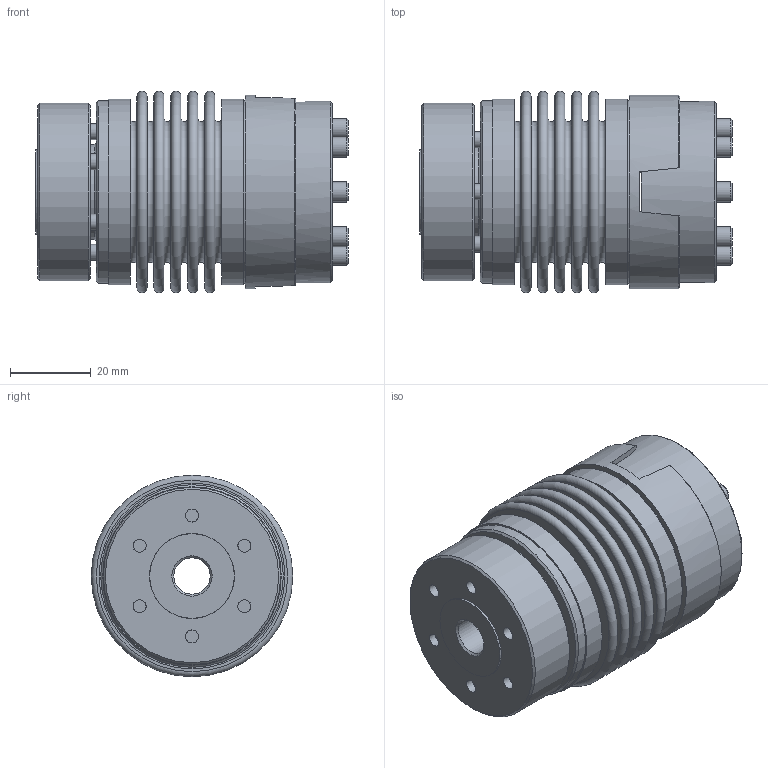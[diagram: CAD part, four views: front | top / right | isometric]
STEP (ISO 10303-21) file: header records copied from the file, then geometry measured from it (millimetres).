
FILE_DESCRIPTION( ( 'Unknown' ), '1' );
FILE_NAME( 'F:/JAKOB-STEP+IGES-Dateien/STEP-Dateien/KPP-F/KPP-F 40.stp', 'Unknown', ( 'Unknown' ), ( 'Unknown' ), 'PSStep 10.1', 'Unknown', ' ' );
FILE_SCHEMA( ( 'AUTOMOTIVE_DESIGN { 1 0 10303 214 1 1 1 1 }' ) );
Length unit declared in the file: millimetre
Products named in the file (1): 28521453
Bounding box: 77.5 x 50 x 50 mm (x, y, z)
Volume: 69849.7 mm3; surface area: 53192.6 mm2
Topology: 1 solids, 1 shells, 451 faces, 997 edges, 628 vertices
Faces by surface type: plane 285, cylinder 85, cone 42, torus 39
Full cylindrical faces by diameter (mm): 3.242 x8, 4 x6, 4.3 x6, 5 x16, 5.4 x8, 7 x6, 7.5 x6, 8.5 x8, 9 x9, 18 x1, 23.6 x1, 40 x1, 44 x1, 45 x1, 45.3 x2, 46.1 x2, 48 x1
Entity records: 14776 total; most frequent: DIRECTION 2066, CARTESIAN_POINT 1818, ORIENTED_EDGE 1542, AXIS2_PLACEMENT_3D 847, EDGE_CURVE 771, EDGE_LOOP 728, VERTEX_POINT 575, FACE_OUTER_BOUND 571
